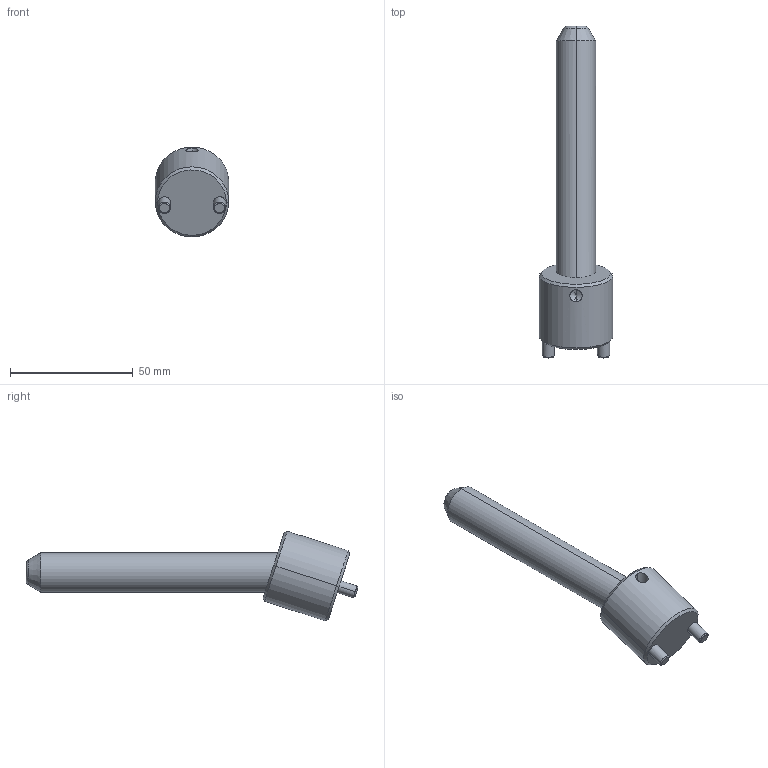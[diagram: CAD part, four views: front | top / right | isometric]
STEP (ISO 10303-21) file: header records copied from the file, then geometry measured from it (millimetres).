
FILE_DESCRIPTION(('CATIA V5 STEP Exchange'),'2;1');
FILE_NAME('C:\Users\Raffaele\Desktop\3D BOLEX\3D FILES CF BOLEX\19-INCLINED ASSEMBLY REF_CI\CI1816100.stp','2019-06-24T07:42:54+00:00',('none'),('none'),'CATIA Version 5 Release 20 GA (IN-10)','CATIA V5 STEP AP203','none');
FILE_SCHEMA(('CONFIG_CONTROL_DESIGN'));
Length unit declared in the file: millimetre
Products named in the file (1): CI1816100
Assembly tree (2 placements, depth 2):
  CI1816100
    #58
    #578
Bounding box: 30 x 135.31 x 36.57 mm (x, y, z)
Volume: 39361.7 mm3; surface area: 11954.4 mm2
Topology: 2 solids, 2 shells, 39 faces, 82 edges, 47 vertices
Faces by surface type: cone 14, cylinder 14, plane 7, torus 4
Entity records: 1473 total; most frequent: CARTESIAN_POINT 612, ORIENTED_EDGE 160, DIRECTION 146, EDGE_CURVE 80, AXIS2_PLACEMENT_3D 73, VERTEX_POINT 47, EDGE_LOOP 43, ADVANCED_FACE 39
